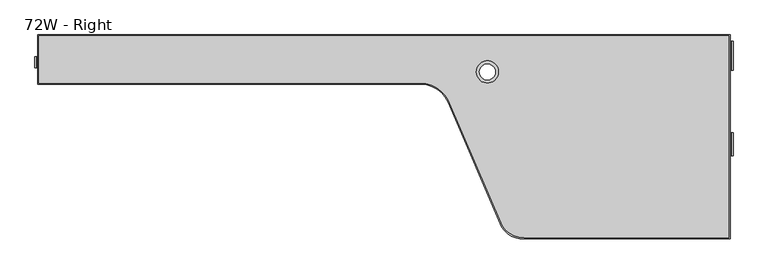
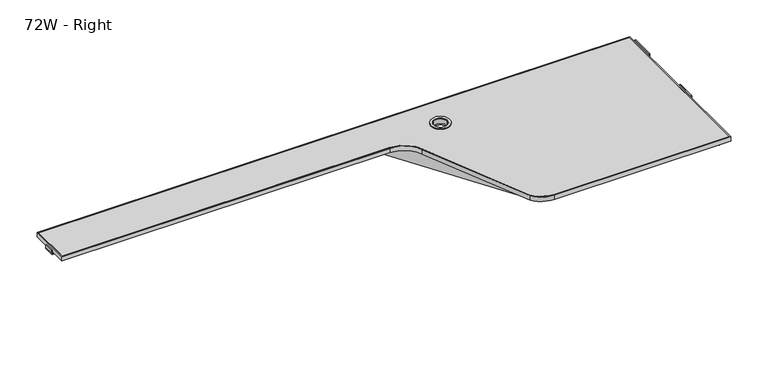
"""IFC4 building model written with IfcOpenShell, lengths in millimetres: furniture geometry, Steelcase Turnstone - Bivi - Table - Dual Top - Upper : 72W - Right."""

from ifc_helpers import new_model, si_unit, point, frame, frame_2d, origin, place, context, project, spatial, polyline, circle_curve, trimmed, segment, composite_curve, outline, extrude, faceted_brep, source, transform, mapped, element, save
from ifc_brep_helpers import plane_surface, cylinder_surface, revolved_surface, advanced_brep


def furniture_72w_right_2cdcb562(model_context):
    return source(origin(), model_context, "Body", "SolidModel", [
        faceted_brep([(1204.3366315, 798.3804985, 984.3365257), (1134.6016381, 798.3804985, 984.3365257), (1134.6016381, 798.3804985, 1041.4865257), (1204.3366315, 798.3804985, 1041.4865257), (1399.7332275, 353.2724638, 1039.9118156), (1399.7332275, 353.2724638, 1041.4865257), (1379.6232345, 353.2724638, 1041.4865257), (1379.6232345, 353.2724638, 1007.3133509), (1399.7332275, 353.2724638, 1007.3133509), (1399.7332275, 353.2724638, 1008.3955413), (1381.766961, 353.2724638, 1008.3955413), (1381.766961, 353.2724638, 1039.9118156)], [[[0, 1, 2, 3]], [[4, 5, 6, 7, 8, 9, 10, 11]], [[4, 11, 0]], [[11, 10, 0]], [[8, 7, 1, 0]], [[10, 9, 0]], [[9, 8, 0]], [[7, 6, 2, 1]], [[6, 5, 3, 2]], [[5, 4, 0, 3]]]),
        faceted_brep([(1903.2924133, 298.0312383, 1041.4865257), (1903.2924133, 298.0312383, 1040.1793583), (1903.2924133, 309.9526244, 1040.1793583), (1903.2924133, 309.9526244, 1031.5145776), (1903.2924133, 337.4886594, 1010.7646869), (1903.2924133, 353.2724638, 1010.7646869), (1903.2924133, 353.2724638, 1041.4865257), (1381.8049901, 353.2724638, 1041.4865257), (1399.7332275, 313.0049832, 1041.4865257), (1399.7332275, 298.0312383, 1041.4865257), (1381.8049901, 353.2724638, 1010.7646869), (1388.8323926, 337.4886594, 1010.7646869), (1399.7332275, 309.9526244, 1031.5145776), (1399.7332275, 313.0049832, 1029.2144603), (1399.7332275, 309.9526244, 1040.1793583), (1399.7332275, 298.0312383, 1040.1793583)], [[[0, 1, 2, 3, 4, 5, 6]], [[0, 6, 7, 8, 9]], [[6, 5, 10, 7]], [[5, 4, 11, 10]], [[4, 3, 12, 13, 11]], [[3, 2, 14, 12]], [[2, 1, 15, 14]], [[1, 0, 9, 15]], [[8, 13, 12, 14, 15, 9]], [[13, 8, 7, 10, 11]]]),
        extrude(outline(composite_curve([segment(polyline([(1043.0122331, 146.3611724), (1052.5780574, 146.3611724), (1052.5780574, 143.3229857), (1043.4087962, 143.3229857)]), True, "CONTINUOUS"), segment(trimmed(circle_curve(frame_2d((1043.4087962, 148.5250221)), 5.2020364), [point((1043.4087962, 143.3229857))], [point((1038.2067598, 148.5250221))], False, "CARTESIAN"), True, "CONTINUOUS"), segment(polyline([(1038.2067598, 148.5250221), (1038.2067598, 171.0287862), (1041.2445831, 171.0287862), (1041.2445831, 148.1288223)]), True, "CONTINUOUS"), segment(trimmed(circle_curve(frame_2d((1043.0122331, 148.1288223)), 1.7676499), [point((1041.2445831, 148.1288223))], [point((1043.0122331, 146.3611724))], True, "CARTESIAN"), True, "CONTINUOUS")], self_intersect=False)), frame((0.0, 731.0843589, 0.0), z_axis=(0.0, 1.0, 0.0), x_axis=(0.0, 0.0, 1.0)), (0.0, 0.0, 1.0), 28.5750242),
        extrude(outline(composite_curve([segment(polyline([(153.4, 691.0157049), (153.4, 812.4281826), (1925.05, 812.4281826), (1925.05, 294.1411651), (1399.7332275, 294.1411651)]), True, "CONTINUOUS"), segment(trimmed(circle_curve(frame_2d((1399.7332275, 360.8351796)), 66.6940145), [point((1399.7332275, 294.1411651))], [point((1344.3613504, 323.6592897))], False, "CARTESIAN"), True, "CONTINUOUS"), segment(polyline([(1344.3613504, 323.6592897), (1204.3366315, 648.623779)]), True, "CONTINUOUS"), segment(trimmed(circle_curve(frame_2d((1134.6016381, 612.4624834)), 78.5532215), [point((1204.3366315, 648.623779))], [point((1134.6016381, 691.0157049))], True, "CARTESIAN"), True, "CONTINUOUS"), segment(polyline([(1134.6016381, 691.0157049), (153.4, 691.0157049)]), True, "CONTINUOUS")], self_intersect=False), holes=[composite_curve([segment(trimmed(circle_curve(frame_2d((1305.0079342, 720.0618051)), 20.4182782), [point((1284.589656, 720.0618051))], [point((1325.4262125, 720.0618051))], True, "CARTESIAN"), True, "CONTINUOUS"), segment(trimmed(circle_curve(frame_2d((1305.0079342, 720.0618051)), 20.4182782), [point((1325.4262125, 720.0618051))], [point((1284.589656, 720.0618051))], True, "CARTESIAN"), True, "CONTINUOUS")], self_intersect=False)]), frame((0.0, 0.0, 1041.4865257), z_axis=(0.0, 0.0, 1.0), x_axis=(1.0, 0.0, 0.0)), (0.0, 0.0, 1.0), 13.9699806),
        advanced_brep(
        [(1903.2924133, 724.9765806, 1033.5003172), (1906.3294373, 724.9765806, 1033.5003172), (1906.3294373, 724.9765806, 1036.2789253), (1908.2572718, 724.9765806, 1038.2067598), (1931.09999, 724.9765806, 1038.2067598), (1936.3020264, 724.9765806, 1043.4087962), (1936.3020264, 724.9765806, 1052.5780574), (1933.2638397, 724.9765806, 1052.5780574), (1933.2638397, 724.9765806, 1043.0122331), (1931.4961898, 724.9765806, 1041.2445831), (1908.5962259, 724.9765806, 1041.2445831), (1903.2924133, 724.9765806, 1035.9407705), (1903.2924133, 564.321009, 1033.5003172), (1906.3294373, 564.321009, 1033.5003172), (1903.2924133, 564.321009, 1035.9407705), (1908.5962259, 564.321009, 1041.2445831), (1931.4961898, 564.321009, 1041.2445831), (1933.2638397, 564.321009, 1043.0122331), (1933.2638397, 564.321009, 1052.5780574), (1936.3020264, 564.321009, 1052.5780574), (1936.3020264, 564.321009, 1043.4087962), (1931.09999, 564.321009, 1038.2067598), (1908.2572718, 564.321009, 1038.2067598), (1906.3294373, 564.321009, 1036.2789253), (1903.2924133, 505.2663324, 1033.5003172), (1906.3294373, 505.2663324, 1033.5003172), (1906.3294373, 505.2663324, 1036.2789253), (1908.2572718, 505.2663324, 1038.2067598), (1931.09999, 505.2663324, 1038.2067598), (1936.3020264, 505.2663324, 1043.4087962), (1936.3020264, 505.2663324, 1052.5780574), (1933.2638397, 505.2663324, 1052.5780574), (1933.2638397, 505.2663324, 1043.0122331), (1931.4961898, 505.2663324, 1041.2445831), (1908.5962259, 505.2663324, 1041.2445831), (1903.2924133, 505.2663324, 1035.9407705), (1903.2924133, 309.4350479, 1033.5003172), (1906.3294373, 309.4350479, 1033.5003172), (1906.3294373, 798.5617693, 1033.5003172), (1903.2924133, 798.5617693, 1033.5003172), (1903.2924133, 798.5617693, 1035.9407705), (1908.5962259, 798.5617693, 1041.2445831), (1931.4961898, 798.5617693, 1041.2445831), (1933.2638397, 798.5617693, 1043.0122331), (1933.2638397, 798.5617693, 1052.5780574), (1936.3020264, 798.5617693, 1052.5780574), (1936.3020264, 798.5617693, 1043.4087962), (1931.09999, 798.5617693, 1038.2067598), (1908.2572718, 798.5617693, 1038.2067598), (1906.3294373, 798.5617693, 1036.2789253), (1903.2924133, 309.4350479, 1026.050419), (1906.3294373, 309.4350479, 1026.050419), (1903.2924133, 330.4740531, 1010.7646869), (1906.3294373, 330.4740531, 1010.7646869), (1906.3294373, 794.9607992, 1010.7646869), (1903.2924133, 794.9607992, 1010.7646869)],
        [
            (0, 1),
            (1, 2),
            (2, 3, circle_curve(frame((1908.2572718, 724.9765806, 1036.2789253), z_axis=(0.0, 1.0, 0.0), x_axis=(1.0, 0.0, 0.0)), 1.9278345)),
            (3, 4),
            (4, 5, circle_curve(frame((1931.09999, 724.9765806, 1043.4087962), z_axis=(0.0, -1.0, 0.0), x_axis=(1.0, 0.0, 0.0)), 5.2020364)),
            (5, 6),
            (6, 7),
            (7, 8),
            (8, 9, circle_curve(frame((1931.4961898, 724.9765806, 1043.0122331), z_axis=(0.0, 1.0, 0.0), x_axis=(1.0, 0.0, 0.0)), 1.7676499)),
            (9, 10),
            (10, 11, circle_curve(frame((1908.5962259, 724.9765806, 1035.9407705), z_axis=(0.0, -1.0, 0.0), x_axis=(1.0, 0.0, 0.0)), 5.3038126)),
            (11, 0),
            (0, 12),
            (12, 13),
            (13, 1),
            (12, 14),
            (14, 15, circle_curve(frame((1908.5962259, 564.321009, 1035.9407705), z_axis=(0.0, 1.0, 0.0), x_axis=(1.0, 0.0, 0.0)), 5.3038126)),
            (15, 16),
            (16, 17, circle_curve(frame((1931.4961898, 564.321009, 1043.0122331), z_axis=(0.0, -1.0, 0.0), x_axis=(1.0, 0.0, 0.0)), 1.7676499)),
            (17, 18),
            (18, 19),
            (19, 20),
            (20, 21, circle_curve(frame((1931.09999, 564.321009, 1043.4087962), z_axis=(0.0, 1.0, 0.0), x_axis=(1.0, 0.0, 0.0)), 5.2020364)),
            (21, 22),
            (22, 23, circle_curve(frame((1908.2572718, 564.321009, 1036.2789253), z_axis=(0.0, -1.0, 0.0), x_axis=(1.0, 0.0, 0.0)), 1.9278345)),
            (23, 13),
            (24, 25),
            (25, 26),
            (26, 27, circle_curve(frame((1908.2572718, 505.2663324, 1036.2789253), z_axis=(0.0, 1.0, 0.0), x_axis=(1.0, 0.0, 0.0)), 1.9278345)),
            (27, 28),
            (28, 29, circle_curve(frame((1931.09999, 505.2663324, 1043.4087962), z_axis=(0.0, -1.0, 0.0), x_axis=(1.0, 0.0, 0.0)), 5.2020364)),
            (29, 30),
            (30, 31),
            (31, 32),
            (32, 33, circle_curve(frame((1931.4961898, 505.2663324, 1043.0122331), z_axis=(0.0, 1.0, 0.0), x_axis=(1.0, 0.0, 0.0)), 1.7676499)),
            (33, 34),
            (34, 35, circle_curve(frame((1908.5962259, 505.2663324, 1035.9407705), z_axis=(0.0, -1.0, 0.0), x_axis=(1.0, 0.0, 0.0)), 5.3038126)),
            (35, 24),
            (24, 36),
            (36, 37),
            (37, 25),
            (38, 39),
            (39, 40),
            (40, 41, circle_curve(frame((1908.5962259, 798.5617693, 1035.9407705), z_axis=(0.0, 1.0, 0.0), x_axis=(1.0, 0.0, 0.0)), 5.3038126)),
            (41, 42),
            (42, 43, circle_curve(frame((1931.4961898, 798.5617693, 1043.0122331), z_axis=(0.0, -1.0, 0.0), x_axis=(1.0, 0.0, 0.0)), 1.7676499)),
            (43, 44),
            (44, 45),
            (45, 46),
            (46, 47, circle_curve(frame((1931.09999, 798.5617693, 1043.4087962), z_axis=(0.0, 1.0, 0.0), x_axis=(1.0, 0.0, 0.0)), 5.2020364)),
            (47, 48),
            (48, 49, circle_curve(frame((1908.2572718, 798.5617693, 1036.2789253), z_axis=(0.0, -1.0, 0.0), x_axis=(1.0, 0.0, 0.0)), 1.9278345)),
            (49, 38),
            (36, 50),
            (50, 51),
            (51, 37),
            (50, 52),
            (52, 53),
            (53, 51),
            (38, 54),
            (54, 55),
            (55, 39),
            (32, 17),
            (16, 33),
            (8, 43),
            (42, 9),
            (15, 34),
            (41, 10),
            (14, 35),
            (40, 11),
            (55, 52),
            (53, 54),
            (49, 2),
            (23, 26),
            (48, 3),
            (22, 27),
            (21, 28),
            (47, 4),
            (20, 29),
            (46, 5),
            (19, 30),
            (45, 6),
            (18, 31),
            (44, 7),
        ],
        [
            plane_surface(frame((-124.7902, 724.9765806, 1074.5657681), z_axis=(0.0, -1.0, 0.0), x_axis=(1.0, 0.0, 0.0))),
            plane_surface(frame((-124.7902, 724.9765806, 1033.5003172), z_axis=(0.0, 0.0, 1.0), x_axis=(1.0, 0.0, 0.0))),
            plane_surface(frame((-124.7902, 564.321009, 1033.5003172), z_axis=(0.0, 1.0, 0.0), x_axis=(1.0, 0.0, 0.0))),
            plane_surface(frame((-124.7902, 505.2663324, 1074.5657681), z_axis=(0.0, -1.0, 0.0), x_axis=(1.0, 0.0, 0.0))),
            plane_surface(frame((-124.7902, 505.2663324, 1033.5003172), z_axis=(0.0, 0.0, 1.0), x_axis=(1.0, 0.0, 0.0))),
            plane_surface(frame((-124.7902, 798.5617693, 1033.5003172), z_axis=(0.0, 1.0, 0.0), x_axis=(1.0, 0.0, 0.0))),
            plane_surface(frame((-124.7902, 309.4350479, 1033.5003172), z_axis=(0.0, -1.0, 0.0), x_axis=(1.0, 0.0, 0.0))),
            plane_surface(frame((-124.7902, 309.4350479, 1026.050419), z_axis=(0.0, -0.5877852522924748, -0.8090169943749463), x_axis=(1.0, 0.0, 0.0))),
            plane_surface(frame((-124.7902, 791.6082574, 989.5975705), z_axis=(0.0, 0.9876883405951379, -0.1564344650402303), x_axis=(1.0, 0.0, 0.0))),
            revolved_surface(polyline([(1933.2638396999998, 564.321009, 1043.0122331), (1933.2638396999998, 505.2663324, 1043.0122331)]), (1931.4961898, 815.2221738, 1043.0122331), (0.0, 1.0, 0.0)),
            revolved_surface(polyline([(1933.2638396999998, 798.5617693, 1043.0122331), (1933.2638396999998, 724.9765806, 1043.0122331)]), (1931.4961898, 815.2221738, 1043.0122331), (0.0, 1.0, 0.0)),
            plane_surface(frame((1931.4961898, 294.1411651, 1041.2445831), z_axis=(0.0, 0.0, 1.0), x_axis=(0.0, 1.0, 0.0))),
            cylinder_surface(frame((1908.5962259, 815.2221738, 1035.9407705), z_axis=(0.0, -1.0, 0.0), x_axis=(1.0, 0.0, 0.0)), 5.3038126),
            plane_surface(frame((1903.2924133, 294.1411651, 1035.9407705), z_axis=(-1.0, 0.0, 0.0), x_axis=(0.0, 1.0, 0.0))),
            plane_surface(frame((1906.3294373, 294.1411651, 1010.7646869), z_axis=(1.0, 0.0, 0.0), x_axis=(0.0, 1.0, 0.0))),
            revolved_surface(polyline([(1910.1851063, 798.5617693, 1036.2789253), (1910.1851063, 724.9765806, 1036.2789253)]), (1908.2572718, 815.2221738, 1036.2789253), (0.0, 1.0, 0.0)),
            revolved_surface(polyline([(1910.1851063, 564.321009, 1036.2789253), (1910.1851063, 505.2663324, 1036.2789253)]), (1908.2572718, 815.2221738, 1036.2789253), (0.0, 1.0, 0.0)),
            plane_surface(frame((1908.2572718, 294.1411651, 1038.2067598), z_axis=(0.0, 0.0, -1.0), x_axis=(0.0, 1.0, 0.0))),
            cylinder_surface(frame((1931.09999, 815.2221738, 1043.4087962), z_axis=(0.0, -1.0, 0.0), x_axis=(1.0, 0.0, 0.0)), 5.2020364),
            plane_surface(frame((1936.3020264, 294.1411651, 1043.4087962), z_axis=(1.0, 0.0, -2.3619506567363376e-12), x_axis=(0.0, 1.0, 0.0))),
            plane_surface(frame((1936.3020264, 294.1411651, 1052.5780574), z_axis=(0.0, 0.0, 1.0), x_axis=(0.0, 1.0, 0.0))),
            plane_surface(frame((1933.2638397, 294.1411651, 1052.5780574), z_axis=(-1.0, 0.0, 0.0), x_axis=(0.0, 1.0, 0.0))),
            plane_surface(frame((1903.2924133, 294.1411651, 1010.7646869), z_axis=(0.0, 0.0, -1.0), x_axis=(0.0, 1.0, 0.0))),
        ],
        [
            (0, [[1, 2, 3, 4, 5, 6, 7, 8, 9, 10, 11, 12]]),
            (1, [[-1, 13, 14, 15]]),
            (2, [[-14, 16, 17, 18, 19, 20, 21, 22, 23, 24, 25, 26]]),
            (3, [[27, 28, 29, 30, 31, 32, 33, 34, 35, 36, 37, 38]]),
            (4, [[-27, 39, 40, 41]]),
            (5, [[42, 43, 44, 45, 46, 47, 48, 49, 50, 51, 52, 53]]),
            (6, [[-40, 54, 55, 56]]),
            (7, [[-55, 57, 58, 59]]),
            (8, [[-42, 60, 61, 62]]),
            (9, [[63, -19, 64, -35]]),
            (10, [[65, -46, 66, -9]]),
            (11, [[-64, -18, 67, -36]]),
            (11, [[-66, -45, 68, -10]]),
            (12, [[-67, -17, 69, -37]]),
            (12, [[-68, -44, 70, -11]]),
            (13, [[-69, -16, -13, -12, -70, -43, -62, 71, -57, -54, -39, -38]]),
            (14, [[72, -60, -53, 73, -2, -15, -26, 74, -28, -41, -56, -59]]),
            (15, [[-73, -52, 75, -3]]),
            (16, [[-74, -25, 76, -29]]),
            (17, [[-76, -24, 77, -30]]),
            (17, [[-75, -51, 78, -4]]),
            (18, [[-77, -23, 79, -31]]),
            (18, [[-78, -50, 80, -5]]),
            (19, [[-79, -22, 81, -32]]),
            (19, [[-80, -49, 82, -6]]),
            (20, [[-81, -21, 83, -33]]),
            (20, [[-82, -48, 84, -7]]),
            (21, [[-63, -34, -83, -20]]),
            (21, [[-65, -8, -84, -47]]),
            (22, [[-72, -58, -71, -61]]),
        ],
    ),
        extrude(outline(composite_curve([segment(polyline([(1010.7646869, 1925.05), (1010.7646869, 1928.6059845), (1038.2299042, 1928.6059845)]), True, "CONTINUOUS"), segment(trimmed(circle_curve(frame_2d((1038.2299042, 1925.5911551)), 3.0148294), [point((1038.2299042, 1928.6059845))], [point((1041.2445831, 1925.621279))], False, "CARTESIAN"), True, "CONTINUOUS"), segment(polyline([(1041.2445831, 1925.621279), (1041.2445831, 1908.4140454)]), True, "CONTINUOUS"), segment(trimmed(circle_curve(frame_2d((1036.122951, 1908.4140454)), 5.1216321), [point((1041.2445831, 1908.4140454))], [point((1038.2067598, 1903.7354926))], False, "CARTESIAN"), True, "CONTINUOUS"), segment(polyline([(1038.2067598, 1903.7354926), (1038.2067598, 1925.05), (1010.7646869, 1925.05)]), True, "CONTINUOUS")], self_intersect=False)), frame((0.0, 567.5617654, 0.0), z_axis=(0.0, 1.0, 0.0), x_axis=(0.0, 0.0, 1.0)), (0.0, 0.0, 1.0), 154.8611003),
        extrude(outline(composite_curve([segment(polyline([(150.6059845, 688.2217075), (150.6059845, 815.2221738), (1928.6059845, 815.2221738), (1928.6059845, 291.3471738), (1399.7332275, 291.3471738)]), True, "CONTINUOUS"), segment(trimmed(circle_curve(frame_2d((1396.5968658, 355.1460501)), 63.8759217), [point((1399.7332275, 291.3471738))], [point((1342.6058651, 321.0124124))], False, "CARTESIAN"), True, "CONTINUOUS"), segment(polyline([(1342.6058651, 321.0124124), (1204.3366315, 641.9028326)]), True, "CONTINUOUS"), segment(trimmed(circle_curve(frame_2d((1134.6016381, 612.5678031)), 75.6539045), [point((1204.3366315, 641.9028326))], [point((1134.6016381, 688.2217075))], True, "CARTESIAN"), True, "CONTINUOUS"), segment(polyline([(1134.6016381, 688.2217075), (150.6059845, 688.2217075)]), True, "CONTINUOUS")], self_intersect=False), holes=[composite_curve([segment(polyline([(1925.05, 812.4281826), (153.4, 812.4281826), (153.4, 691.0157049), (1134.6016381, 691.0157049)]), True, "CONTINUOUS"), segment(trimmed(circle_curve(frame_2d((1134.6016381, 612.4624834)), 78.5532215), [point((1134.6016381, 691.0157049))], [point((1204.3366315, 648.623779))], False, "CARTESIAN"), True, "CONTINUOUS"), segment(polyline([(1204.3366315, 648.623779), (1344.3613504, 323.6592897)]), True, "CONTINUOUS"), segment(trimmed(circle_curve(frame_2d((1399.7332275, 360.8351796)), 66.6940145), [point((1344.3613504, 323.6592897))], [point((1399.7332275, 294.1411651))], True, "CARTESIAN"), True, "CONTINUOUS"), segment(polyline([(1399.7332275, 294.1411651), (1925.05, 294.1411651), (1925.05, 812.4281826)]), True, "CONTINUOUS")], self_intersect=False)]), frame((0.0, 0.0, 1041.4865257), z_axis=(0.0, 0.0, 1.0), x_axis=(1.0, 0.0, 0.0)), (0.0, 0.0, 1.0), 13.9699806),
        extrude(outline(composite_curve([segment(trimmed(circle_curve(frame_2d((1305.4436852, 720.0618051)), 28.3365682), [point((1333.7802533, 720.0618051))], [point((1277.107117, 720.0618051))], False, "CARTESIAN"), True, "CONTINUOUS"), segment(trimmed(circle_curve(frame_2d((1305.4436852, 720.0618051)), 28.3365682), [point((1277.107117, 720.0618051))], [point((1333.7802533, 720.0618051))], False, "CARTESIAN"), True, "CONTINUOUS")], self_intersect=False), holes=[composite_curve([segment(trimmed(circle_curve(frame_2d((1305.4436852, 720.0618051)), 20.4182782), [point((1325.8619634, 720.0618051))], [point((1285.0254069, 720.0618051))], True, "CARTESIAN"), True, "CONTINUOUS"), segment(trimmed(circle_curve(frame_2d((1305.4436852, 720.0618051)), 20.4182782), [point((1285.0254069, 720.0618051))], [point((1325.8619634, 720.0618051))], True, "CARTESIAN"), True, "CONTINUOUS")], self_intersect=False)]), frame((0.0, 0.0, 1036.8869459), z_axis=(0.0, 0.0, 1.0), x_axis=(1.0, 0.0, 0.0)), (0.0, 0.0, 1.0), 21.3373179),
    ])


if __name__ == "__main__":
    model = new_model("IFC4")
    model_context = context("Model", 3, world=origin())
    ifc_project = project(units=[si_unit("LENGTHUNIT", "METRE", prefix="MILLI")], contexts=[model_context])
    site = spatial("IfcSite", under=ifc_project)
    building = spatial("IfcBuilding", under=site)
    placement = place(None, origin())
    furniture_72w_right_shape = furniture_72w_right_2cdcb562(model_context)
    element("IfcFurniture", 1, ObjectType="Steelcase Turnstone - Bivi - Table - Dual Top - Upper : 72W - Right", at=placement, inside=building, context=model_context, shape_type="MappedRepresentation", body=[
        mapped(furniture_72w_right_shape, transform((0.0, 0.0, 0.0), x_axis=(1.0, 0.0, 0.0), y_axis=(0.0, 1.0, 0.0), z_axis=(0.0, 0.0, 1.0))),
    ])
    save(model, "model.ifc")
